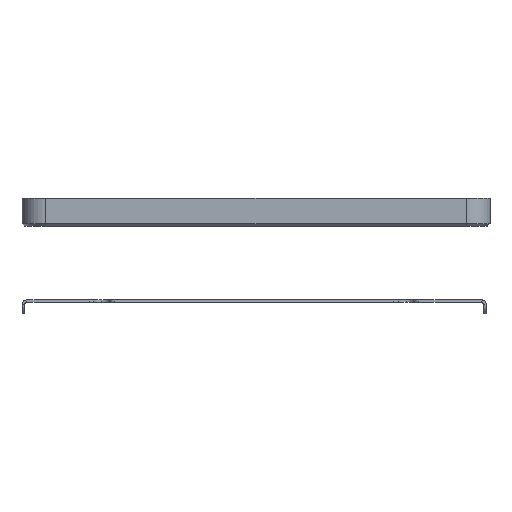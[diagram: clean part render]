
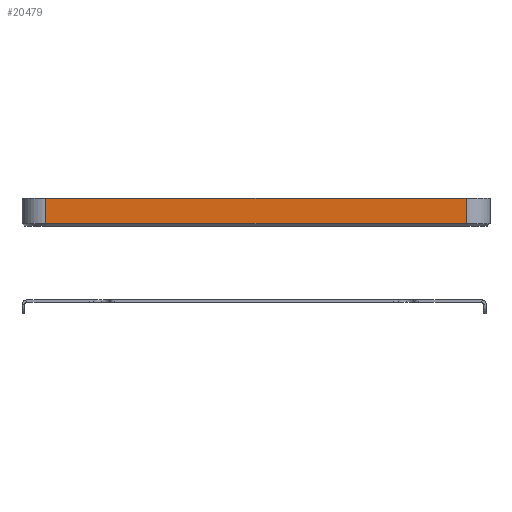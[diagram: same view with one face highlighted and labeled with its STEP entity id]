
A CAD part, left-side view. The second image highlights one B-rep face of the part: STEP entity #20479.
In plain terms, the highlighted planar face has unit normal (-1, 0, 0) as drawn and (1, 0, 0) by its records, which use the part's own axes.
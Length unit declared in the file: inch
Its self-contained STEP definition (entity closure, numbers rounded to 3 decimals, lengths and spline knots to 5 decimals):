
#404 = ORIENTED_EDGE ( 'NONE', *, *, #12349, .T. ) ;
#995 = AXIS2_PLACEMENT_3D ( 'NONE', #16048, #17699, #7615 ) ;
#1147 = VECTOR ( 'NONE', #14721, 39.37008 ) ;
#1967 = CARTESIAN_POINT ( 'NONE',  ( 3.7125, -2.845, 0.345 ) ) ;
#2342 = CARTESIAN_POINT ( 'NONE',  ( 3.7125, 2.845, 0.375 ) ) ;
#3129 = DIRECTION ( 'NONE',  ( 0., 0., -1. ) ) ;
#3474 = VERTEX_POINT ( 'NONE', #12167 ) ;
#4244 = PLANE ( 'NONE',  #995 ) ;
#4637 = ORIENTED_EDGE ( 'NONE', *, *, #18075, .T. ) ;
#4694 = ORIENTED_EDGE ( 'NONE', *, *, #8875, .T. ) ;
#5849 = LINE ( 'NONE', #2342, #18767 ) ;
#6414 = FACE_OUTER_BOUND ( 'NONE', #12313, .T. ) ;
#7317 = LINE ( 'NONE', #1967, #11303 ) ;
#7434 = DIRECTION ( 'NONE',  ( 0., 0., 1. ) ) ;
#7615 = DIRECTION ( 'NONE',  ( 0., -1., 0. ) ) ;
#8875 = EDGE_CURVE ( 'NONE', #20100, #19880, #14122, .T. ) ;
#9058 = VERTEX_POINT ( 'NONE', #20288 ) ;
#9619 = CARTESIAN_POINT ( 'NONE',  ( 3.7125, 3.17, 0. ) ) ;
#9840 = CARTESIAN_POINT ( 'NONE',  ( 3.7125, -2.845, 0.375 ) ) ;
#11303 = VECTOR ( 'NONE', #18841, 39.37008 ) ;
#12167 = CARTESIAN_POINT ( 'NONE',  ( 3.7125, 2.845, 0.345 ) ) ;
#12233 = LINE ( 'NONE', #9840, #20087 ) ;
#12313 = EDGE_LOOP ( 'NONE', ( #404, #4637, #16503, #4694 ) ) ;
#12349 = EDGE_CURVE ( 'NONE', #19880, #3474, #5849, .T. ) ;
#13375 = CARTESIAN_POINT ( 'NONE',  ( 3.7125, -2.845, 0. ) ) ;
#14122 = LINE ( 'NONE', #9619, #1147 ) ;
#14721 = DIRECTION ( 'NONE',  ( 0., 1., 0. ) ) ;
#16030 = EDGE_CURVE ( 'NONE', #9058, #20100, #12233, .T. ) ;
#16048 = CARTESIAN_POINT ( 'NONE',  ( 3.7125, 3.17, 0.375 ) ) ;
#16503 = ORIENTED_EDGE ( 'NONE', *, *, #16030, .T. ) ;
#17699 = DIRECTION ( 'NONE',  ( -1., 0., 0. ) ) ;
#18075 = EDGE_CURVE ( 'NONE', #3474, #9058, #7317, .T. ) ;
#18767 = VECTOR ( 'NONE', #7434, 39.37008 ) ;
#18841 = DIRECTION ( 'NONE',  ( 0., -1., 0. ) ) ;
#19880 = VERTEX_POINT ( 'NONE', #21124 ) ;
#20087 = VECTOR ( 'NONE', #3129, 39.37008 ) ;
#20100 = VERTEX_POINT ( 'NONE', #13375 ) ;
#20288 = CARTESIAN_POINT ( 'NONE',  ( 3.7125, -2.845, 0.345 ) ) ;
#20479 = ADVANCED_FACE ( 'NONE', ( #6414 ), #4244, .F. ) ;
#21124 = CARTESIAN_POINT ( 'NONE',  ( 3.7125, 2.845, 0. ) ) ;
